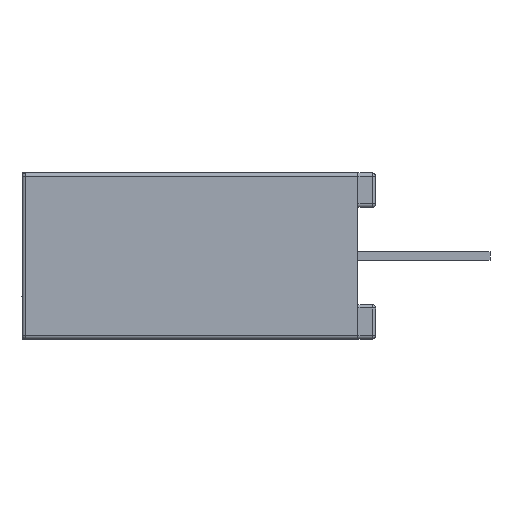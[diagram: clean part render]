
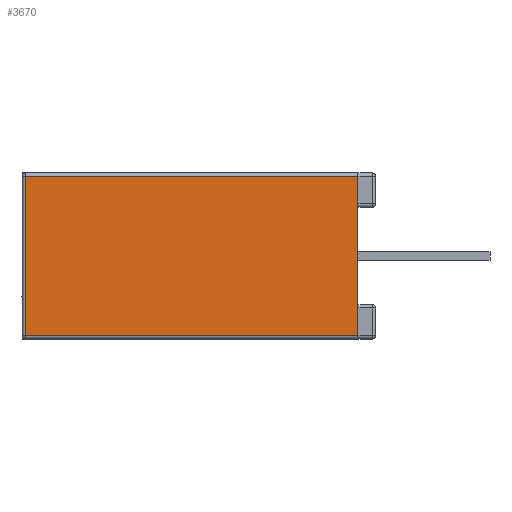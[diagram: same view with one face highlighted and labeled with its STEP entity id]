
A CAD part, left-side view. The second image highlights one B-rep face of the part: STEP entity #3670.
In plain terms, the highlighted planar face has unit normal (-1, 0, 0).
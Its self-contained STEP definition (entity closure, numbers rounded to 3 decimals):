
#3370 = VERTEX_POINT ( 'NONE', #21209 ) ;
#3373 = VERTEX_POINT ( 'NONE', #21207 ) ;
#3375 = EDGE_CURVE ( 'NONE', #3373, #3370, #21201, .T. ) ;
#3598 = EDGE_CURVE ( 'NONE', #3675, #3373, #21629, .T. ) ;
#3599 = ORIENTED_EDGE ( 'NONE', *, *, #3375, .T. ) ;
#3600 = ORIENTED_EDGE ( 'NONE', *, *, #3601, .T. ) ;
#3601 = EDGE_CURVE ( 'NONE', #3370, #3674, #21625, .T. ) ;
#3670 = ADVANCED_FACE ( 'NONE', ( #21703 ), #21702, .T. ) ;
#3671 = EDGE_LOOP ( 'NONE', ( #3672, #3676, #3599, #3600 ) ) ;
#3672 = ORIENTED_EDGE ( 'NONE', *, *, #3673, .T. ) ;
#3673 = EDGE_CURVE ( 'NONE', #3674, #3675, #21759, .T. ) ;
#3674 = VERTEX_POINT ( 'NONE', #21755 ) ;
#3675 = VERTEX_POINT ( 'NONE', #21754 ) ;
#3676 = ORIENTED_EDGE ( 'NONE', *, *, #3598, .T. ) ;
#21198 = DIRECTION ( 'NONE',  ( 0., 0., 1. ) ) ;
#21199 = VECTOR ( 'NONE', #21198, 1000. ) ;
#21200 = CARTESIAN_POINT ( 'NONE',  ( -9.55, 0., -2.4 ) ) ;
#21201 = LINE ( 'NONE', #21200, #21199 ) ;
#21207 = CARTESIAN_POINT ( 'NONE',  ( -9.55, 0., -2.3 ) ) ;
#21209 = CARTESIAN_POINT ( 'NONE',  ( -9.55, 0., 2.3 ) ) ;
#21622 = DIRECTION ( 'NONE',  ( 0., 1., 0. ) ) ;
#21623 = VECTOR ( 'NONE', #21622, 1000. ) ;
#21624 = CARTESIAN_POINT ( 'NONE',  ( -9.55, 9.692, 2.3 ) ) ;
#21625 = LINE ( 'NONE', #21624, #21623 ) ;
#21626 = DIRECTION ( 'NONE',  ( 0., -1., 0. ) ) ;
#21627 = VECTOR ( 'NONE', #21626, 1000. ) ;
#21628 = CARTESIAN_POINT ( 'NONE',  ( -9.55, 0., -2.3 ) ) ;
#21629 = LINE ( 'NONE', #21628, #21627 ) ;
#21700 = CARTESIAN_POINT ( 'NONE',  ( -9.55, 0., -2.4 ) ) ;
#21701 = AXIS2_PLACEMENT_3D ( 'NONE', #21700, #21761, #21760 ) ;
#21702 = PLANE ( 'NONE',  #21701 ) ;
#21703 = FACE_OUTER_BOUND ( 'NONE', #3671, .T. ) ;
#21754 = CARTESIAN_POINT ( 'NONE',  ( -9.55, 9.592, -2.3 ) ) ;
#21755 = CARTESIAN_POINT ( 'NONE',  ( -9.55, 9.592, 2.3 ) ) ;
#21756 = DIRECTION ( 'NONE',  ( 0., 0., -1. ) ) ;
#21757 = VECTOR ( 'NONE', #21756, 1000. ) ;
#21758 = CARTESIAN_POINT ( 'NONE',  ( -9.55, 9.592, -2.4 ) ) ;
#21759 = LINE ( 'NONE', #21758, #21757 ) ;
#21760 = DIRECTION ( 'NONE',  ( 0., 0., 1. ) ) ;
#21761 = DIRECTION ( 'NONE',  ( -1., 0., 0. ) ) ;
